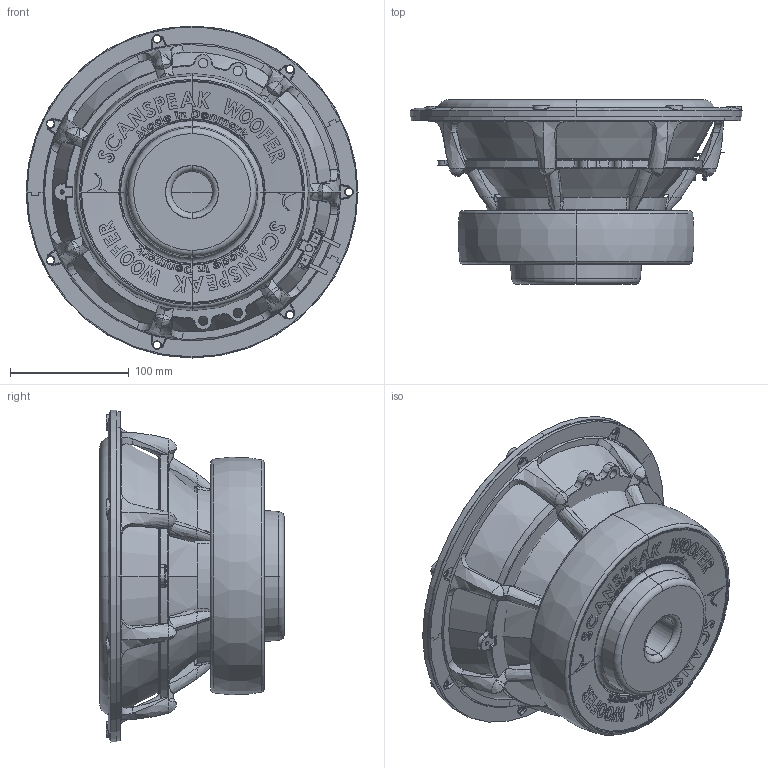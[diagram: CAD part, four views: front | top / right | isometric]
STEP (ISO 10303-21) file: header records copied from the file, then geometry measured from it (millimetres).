
FILE_DESCRIPTION (( 'STEP AP214' ), '1' );
FILE_NAME ('28W-8878T01.STEP', '2020-12-17T11:48:28', ( '' ), ( '' ), 'SwSTEP 2.0', 'SolidWorks 2019', '' );
FILE_SCHEMA (( 'AUTOMOTIVE_DESIGN' ));
Length unit declared in the file: millimetre
Products named in the file (1): 28W-8878T01
Bounding box: 279.88 x 155.6 x 279.88 mm (x, y, z)
Surface area: 661871 mm2 (no closed solid volume)
Topology: 0 solids, 36 shells, 1540 faces, 5453 edges, 3715 vertices
Faces by surface type: bspline 482, plane 403, cone 245, torus 227, cylinder 175, sphere 8
Entity records: 113953 total; most frequent: CARTESIAN_POINT 58310, ORIENTED_EDGE 8745, DIRECTION 5954, EDGE_CURVE 5419, VERTEX_POINT 3708, B_SPLINE_CURVE_WITH_KNOTS 2829, AXIS2_PLACEMENT_3D 2315, EDGE_LOOP 1688
